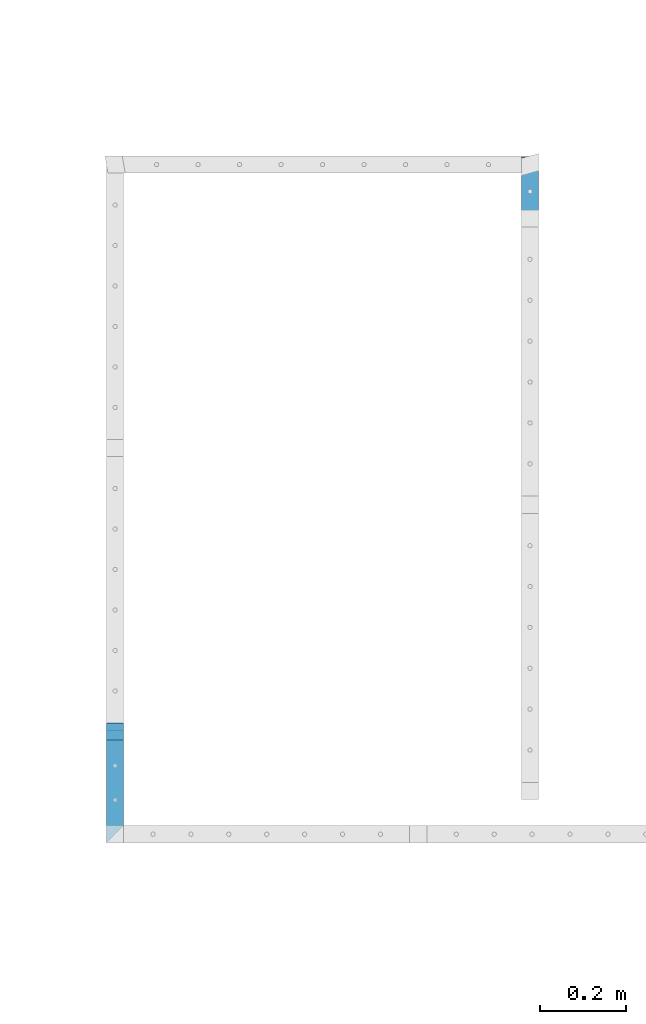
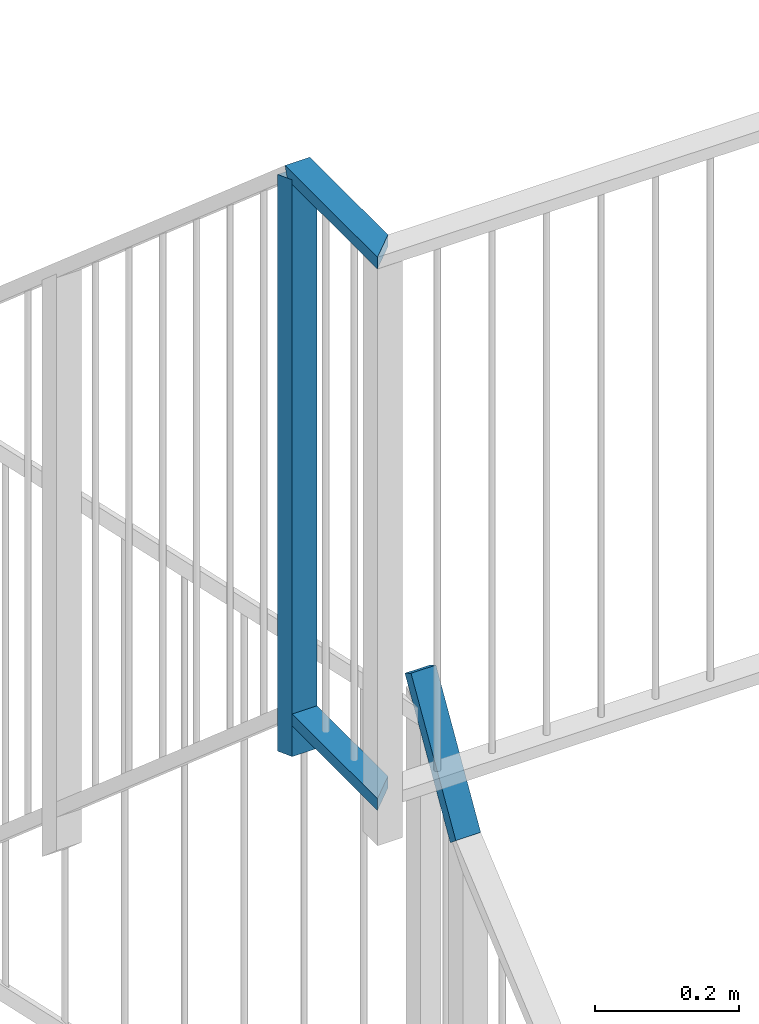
# One storey, part 67 of 135: 4 members, 1 element without a shape of its own.
"""IFC2X3 building model written with IfcOpenShell, lengths in millimetres."""

from ifc_helpers import new_model, entity, si_unit, converted_unit, derived_unit, money_unit, direction, frame, origin_with_axes, place, context, subcontext, project, spatial, faceted_brep, material, type_object, element, aggregate, save


model = new_model("IFC2X3")

# Units and contexts
model_context = context("Model", 3, precision=0.01, world=origin_with_axes(), true_north=direction((0.0, 1.0)))
body_context = subcontext(model_context, "Body", "Model", "MODEL_VIEW")
ifc_project = project(units=[si_unit("LENGTHUNIT", "METRE", prefix="MILLI"), si_unit("AREAUNIT", "SQUARE_METRE"), si_unit("VOLUMEUNIT", "CUBIC_METRE"), converted_unit("PLANEANGLEUNIT", "DEGREE", entity("IfcPlaneAngleMeasure", 0.0174532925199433), si_unit("PLANEANGLEUNIT", "RADIAN"), dimensions=[0, 0, 0, 0, 0, 0, 0]), money_unit("EUR"), converted_unit("TIMEUNIT", "Year", entity("IfcTimeMeasure", 31557600.0), si_unit("TIMEUNIT", "SECOND"), dimensions=[0, 0, 1, 0, 0, 0, 0]), si_unit("MASSUNIT", "GRAM", prefix="KILO"), si_unit("THERMODYNAMICTEMPERATUREUNIT", "DEGREE_CELSIUS"), si_unit("LUMINOUSINTENSITYUNIT", "LUMEN"), si_unit("ENERGYUNIT", "JOULE", prefix="MEGA"), derived_unit("THERMALCONDUCTANCEUNIT", [(si_unit("POWERUNIT", "WATT"), 1), (si_unit("LENGTHUNIT", "METRE"), -1), (si_unit("THERMODYNAMICTEMPERATUREUNIT", "KELVIN"), -1)]), derived_unit("SPECIFICHEATCAPACITYUNIT", [(si_unit("ENERGYUNIT", "JOULE"), 1), (si_unit("MASSUNIT", "GRAM", prefix="KILO"), -1), (si_unit("THERMODYNAMICTEMPERATUREUNIT", "KELVIN"), -1)]), derived_unit("MASSDENSITYUNIT", [(si_unit("MASSUNIT", "GRAM", prefix="KILO"), 1), (si_unit("VOLUMEUNIT", "CUBIC_METRE"), -1)])], contexts=[model_context])

# Site, building, storey
site_placement = place(None, origin_with_axes())
site = spatial("IfcSite", under=ifc_project, at=site_placement, Name="Site", CompositionType="ELEMENT")
building_placement = place(site_placement, origin_with_axes())
building = spatial("IfcBuilding", under=site, at=building_placement, Name="Naam gebouw", CompositionType="ELEMENT")
storey_placement = place(building_placement, origin_with_axes())
storey = spatial("IfcBuildingStorey", under=building, at=storey_placement, Name="Begane grond N", CompositionType="ELEMENT", Elevation=0.0)

# Railing, members
railing_type = type_object("IfcRailingType", Name="Railing Type", PredefinedType="NOTDEFINED")
railing_placement = place(storey_placement, frame((799.9999999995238, 21575.82979156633, 4340.731848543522), z_axis=(0.0, 0.0, 1.0), x_axis=(1.0, 0.0, 0.0)))
railing = element("IfcRailing", 1, at=railing_placement, inside=storey, type_object=railing_type, Name="_Reling-x", PredefinedType="NOTDEFINED")
ifc_material = material(Name="Metaal - Staal C")
member_type_1 = type_object("IfcMemberType", Name="IfcMember", PredefinedType="POST")
member_1_placement = place(railing_placement, frame((-1084.999999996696, 137.6208934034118, 3321.96815145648), z_axis=(0.0, 0.0, 1.0), x_axis=(1.0, 0.0, 0.0)))
member_1 = element("IfcMember", 2, at=member_1_placement, type_object=member_type_1, material=ifc_material, Name="_Hoofdbaluster-x", ObjectType="POST", context=body_context, shape_type="Brep", body=[
    faceted_brep([(-20.00000000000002, -19.99999999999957, 7.449800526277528), (20.00000000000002, -19.99999999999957, 7.449800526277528), (20.00000000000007, -19.99999999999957, 987.449800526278), (-19.99999999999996, -19.99999999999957, 987.449800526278), (-20.00000000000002, 19.99999999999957, -7.449800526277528), (20.00000000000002, 19.99999999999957, -7.449800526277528), (20.00000000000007, 19.99999999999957, 972.5501994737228), (-19.99999999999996, 19.99999999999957, 972.5501994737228)], [[[0, 1, 2, 3]], [[0, 4, 5, 1]], [[1, 5, 6, 2]], [[3, 2, 6, 7]], [[4, 0, 3, 7]], [[5, 4, 7, 6]]]),
])
member_type_2 = type_object("IfcMemberType", Name="IfcMember", PredefinedType="USERDEFINED")
member_2_placement = place(railing_placement, frame((-124.9934323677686, 1386.92931986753, 2090.457564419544), z_axis=(0.0, 0.0, 1.0), x_axis=(1.0, 0.0, 0.0)))
member_2 = element("IfcMember", 3, at=member_2_placement, type_object=member_type_2, material=ifc_material, Name="_Bovenregel-x", context=body_context, shape_type="Brep", body=[
    faceted_brep([(20.01096202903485, -62.35660288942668, 28.28427124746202), (20.00987062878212, -46.90016770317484, 15.15980796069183), (19.9860194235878, 79.53077043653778, 226.7784010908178), (-19.98903792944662, -62.35942734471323, 28.28427124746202), (-19.99012932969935, -46.90299215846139, 15.15980796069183), (-20.01397995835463, 79.52373875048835, 226.7784010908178), (19.98903764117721, 62.3615309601, 237.0359449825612), (-20.01096174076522, 62.35449927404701, 237.0359449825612)], [[[0, 1, 2]], [[0, 3, 4, 1]], [[1, 5, 2]], [[0, 2, 6]], [[3, 0, 6]], [[4, 3, 7]], [[1, 4, 5]], [[6, 2, 5, 7]], [[3, 6, 7]], [[4, 7, 5]]]),
])
member_3_placement = place(railing_placement, frame((-1084.999999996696, 18.8104467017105, 4293.683880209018), z_axis=(0.0, 0.0, 1.0), x_axis=(1.0, 0.0, 0.0)))
member_3 = element("IfcMember", 4, at=member_3_placement, type_object=member_type_2, material=ifc_material, Name="_Bovenregel-x", context=body_context, shape_type="Brep", body=[
    faceted_brep([(-19.99999999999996, 118.8104467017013, 28.28427124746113), (-19.99999999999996, 111.3606461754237, 8.284271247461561), (-20.00000000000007, -138.8104467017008, 8.284271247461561), (-20.00000000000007, -138.8104467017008, 28.28427124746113), (20.00000000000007, 118.8104467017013, 28.28427124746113), (20.00000000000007, 111.3606461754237, 8.284271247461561), (19.99999999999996, -98.8104467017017, 8.284271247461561), (19.99999999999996, -98.8104467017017, 28.28427124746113)], [[[0, 1, 2, 3]], [[0, 4, 5, 1]], [[1, 5, 6, 2]], [[3, 2, 6, 7]], [[4, 0, 3, 7]], [[5, 4, 7, 6]]]),
])
member_4_placement = place(railing_placement, frame((-1084.999999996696, 18.8104467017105, 3369.607471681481), z_axis=(0.0, 0.0, 1.0), x_axis=(1.0, 0.0, 0.0)))
member_4 = element("IfcMember", 5, at=member_4_placement, type_object=member_type_2, material=ifc_material, Name="_Regel-x", context=body_context, shape_type="Brep", body=[
    faceted_brep([(-19.99999999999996, 122.5353469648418, 32.36067977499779), (-19.99999999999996, 115.0855464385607, 12.36067977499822), (-20.00000000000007, -138.8104467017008, 12.36067977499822), (-20.00000000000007, -138.8104467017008, 32.36067977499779), (20.00000000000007, 122.5353469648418, 32.36067977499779), (20.00000000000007, 115.0855464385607, 12.36067977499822), (19.99999999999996, -98.8104467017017, 12.36067977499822), (19.99999999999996, -98.8104467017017, 32.36067977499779)], [[[0, 1, 2, 3]], [[0, 4, 5, 1]], [[1, 5, 6, 2]], [[3, 2, 6, 7]], [[4, 0, 3, 7]], [[5, 4, 7, 6]]]),
])
aggregate(railing, [member_1, member_2, member_3, member_4])

save(model, "model.ifc")
